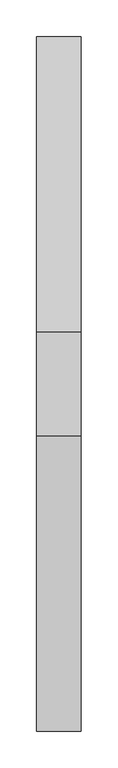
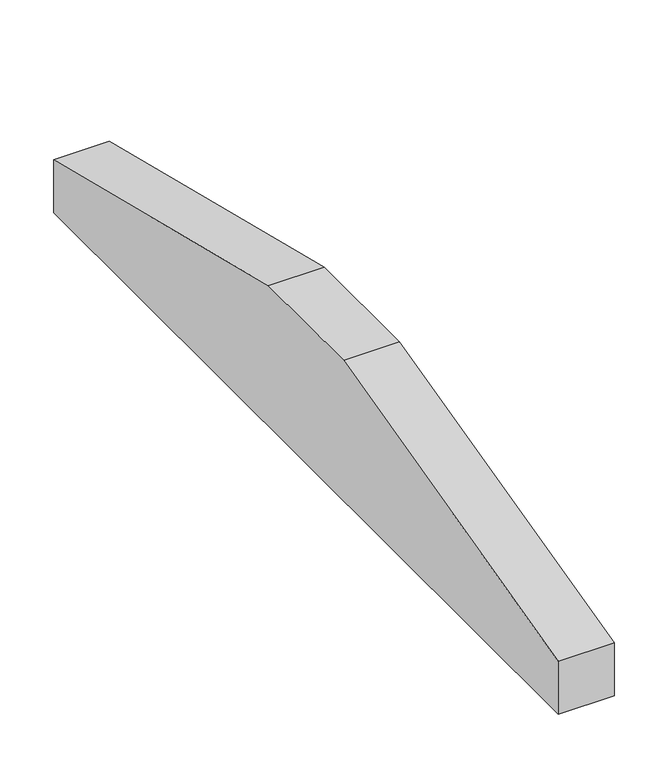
"""IFC4 building model written with IfcOpenShell, lengths in millimetres: proxy geometry, Modelos genéricos 161 : Modelos genéricos 144."""

import ifcopenshell
import ifcopenshell.guid

model = None  # the IFC model being written
_history = None  # IfcOwnerHistory: only IFC2X3 demands one
_inside = {}  # id of a spatial element -> (the spatial element, [elements in it])
_under = {}  # id of a project, library or spatial element -> (it, [spatial elements below it])
_declared = {}  # id of a project -> (the project, [libraries it declares])
_typed = {}  # id of a type object -> (the type object, [elements of that type])
_made_of = {}  # id of a material, layer set ... -> (it, [elements and type objects made of it])


def new_model(schema):
    """Start an empty IFC model of exactly this schema.

    Asked for "IFC4X3", IfcOpenShell would pick the latest addendum, in which some entities
    have other attributes; the version numbers below select the first issue.
    IFC2X3 requires an IfcOwnerHistory on every rooted entity: one is made here for all.
    """
    global model, _history
    if schema == "IFC4X3":
        model = ifcopenshell.file(schema_version=(4, 3, 0, 0))
    else:
        model = ifcopenshell.file(schema=schema)
    _inside.clear()
    _under.clear()
    _declared.clear()
    _typed.clear()
    _made_of.clear()
    _history = None
    if model.schema == "IFC2X3":
        org = make("IfcOrganization", Name="unknown")
        user = make(
            "IfcPersonAndOrganization",
            ThePerson=make("IfcPerson", FamilyName="unknown"),
            TheOrganization=org,
        )
        app = make(
            "IfcApplication",
            ApplicationDeveloper=org,
            Version="unknown",
            ApplicationFullName="unknown",
            ApplicationIdentifier="unknown",
        )
        _history = make(
            "IfcOwnerHistory",
            OwningUser=user,
            OwningApplication=app,
            ChangeAction="ADDED",
            CreationDate=0,
        )
    return model


def make(cls, **values):
    """One entity of the class cls with the attributes given. An attribute that is None is left unset."""
    return model.create_entity(
        cls, **{name: value for name, value in values.items() if value is not None}
    )


def rooted(cls, **values):
    """An entity with a GlobalId (a new one), such as an element, a storey or a relation."""
    return make(cls, GlobalId=ifcopenshell.guid.new(), OwnerHistory=_history, **values)


def si_unit(unit_type, name, prefix=None):
    """IfcSIUnit, for example si_unit("LENGTHUNIT", "METRE", prefix="MILLI")."""
    return make("IfcSIUnit", UnitType=unit_type, Prefix=prefix, Name=name)


def assignment(units):
    """IfcUnitAssignment: the units of a project."""
    return None if units is None else make("IfcUnitAssignment", Units=units)


def point(xyz):
    """IfcCartesianPoint."""
    return None if xyz is None else make("IfcCartesianPoint", Coordinates=xyz)


def direction(xyz):
    """IfcDirection."""
    return None if xyz is None else make("IfcDirection", DirectionRatios=xyz)


def frame(location, z_axis=None, x_axis=None):
    """IfcAxis2Placement3D, a coordinate frame: its origin and axes. An axis left out is left unset."""
    return make(
        "IfcAxis2Placement3D",
        Location=point(location),
        Axis=direction(z_axis),
        RefDirection=direction(x_axis),
    )


def origin():
    """The frame at (0, 0, 0) with its axes left unset."""
    return frame((0.0, 0.0, 0.0))


def place(relative_to, where):
    """IfcLocalPlacement: puts the frame where relative to a parent placement (None: the world)."""
    return make(
        "IfcLocalPlacement", PlacementRelTo=relative_to, RelativePlacement=where
    )


def context(
    kind, dimensions, precision=None, world=None, true_north=None, identifier=None
):
    """IfcGeometricRepresentationContext, for example the 3D "Model" context."""
    return make(
        "IfcGeometricRepresentationContext",
        ContextIdentifier=identifier,
        ContextType=kind,
        CoordinateSpaceDimension=dimensions,
        Precision=precision,
        WorldCoordinateSystem=world,
        TrueNorth=true_north,
    )


def project(units=None, contexts=None):
    """IfcProject with its units and contexts."""
    return rooted(
        "IfcProject",
        Name="project",
        RepresentationContexts=contexts,
        UnitsInContext=assignment(units),
    )


def spatial(cls, under=None, at=None, **own):
    """A site, building, storey or space (cls), placed at a placement, below another one or the project."""
    s = rooted(cls, ObjectPlacement=at, **own)
    if under is not None:
        _under.setdefault(under.id(), (under, []))[1].append(s)
    return s


def polyline(points):
    """IfcPolyline through the points."""
    return make("IfcPolyline", Points=[point(p) for p in points])


def outline(outer, holes=None, kind="AREA"):
    """IfcArbitraryClosedProfileDef: a profile drawn as a closed curve; with holes, ...WithVoids."""
    if holes is None:
        return make("IfcArbitraryClosedProfileDef", ProfileType=kind, OuterCurve=outer)
    return make(
        "IfcArbitraryProfileDefWithVoids",
        ProfileType=kind,
        OuterCurve=outer,
        InnerCurves=holes,
    )


def extrude(swept, where, along, depth):
    """IfcExtrudedAreaSolid: the profile swept, set in the frame where, extruded along a direction by depth."""
    return make(
        "IfcExtrudedAreaSolid",
        SweptArea=swept,
        Position=where,
        ExtrudedDirection=direction(along),
        Depth=depth,
    )


def shape(context_of_items, identifier, shape_type, items):
    """IfcShapeRepresentation: the items that make up one representation, for example the "Body"."""
    return make(
        "IfcShapeRepresentation",
        ContextOfItems=context_of_items,
        RepresentationIdentifier=identifier,
        RepresentationType=shape_type,
        Items=items,
    )


def source(mapping_origin, context_of_items, identifier, shape_type, items):
    """IfcRepresentationMap: a shape defined once, which mapped items show again and again."""
    return make(
        "IfcRepresentationMap",
        MappingOrigin=mapping_origin,
        MappedRepresentation=shape(context_of_items, identifier, shape_type, items),
    )


def transform(
    local_origin,
    x_axis=None,
    y_axis=None,
    z_axis=None,
    scale=None,
    scale2=None,
    scale3=None,
    uniform=True,
):
    """IfcCartesianTransformationOperator3D, or its non-uniform kind. x_axis, y_axis, z_axis: its Axis1, 2, 3."""
    if uniform:
        return make(
            "IfcCartesianTransformationOperator3D",
            Axis1=direction(x_axis),
            Axis2=direction(y_axis),
            LocalOrigin=point(local_origin),
            Scale=scale,
            Axis3=direction(z_axis),
        )
    return make(
        "IfcCartesianTransformationOperator3DnonUniform",
        Axis1=direction(x_axis),
        Axis2=direction(y_axis),
        LocalOrigin=point(local_origin),
        Scale=scale,
        Axis3=direction(z_axis),
        Scale2=scale2,
        Scale3=scale3,
    )


def mapped(mapping_source, mapping_target):
    """IfcMappedItem: shows the shape of a source again, moved by a transform."""
    return make(
        "IfcMappedItem", MappingSource=mapping_source, MappingTarget=mapping_target
    )


def made_of(thing, what):
    """Note that an element or type object is made of a material, layer set ...; save() writes the relation."""
    if what is not None:
        _made_of.setdefault(what.id(), (what, []))[1].append(thing)
    return thing


def element(
    cls,
    number,
    at=None,
    inside=None,
    cuts=None,
    type_object=None,
    material=None,
    context=None,
    identifier="Body",
    shape_type=None,
    held_by="IfcProductDefinitionShape",
    body=None,
    shapes=None,
    **own,
):
    """One element of the class cls, such as IfcWall. Its Tag is "e" and its number.

    at: its placement. inside: the storey or other place that contains it. cuts: it is an
    opening in that element (IfcRelVoidsElement). A single representation is given by context,
    identifier, shape_type and body (its items); several are given by shapes. held_by: the class
    of the entity that holds the representations. save() writes the other relations.
    """
    e = rooted(cls, Tag="e%d" % number, ObjectPlacement=at, **own)
    if body is not None:
        shapes = [shape(context, identifier, shape_type, body)]
    if shapes is not None:
        e.Representation = make(held_by, Representations=shapes)
    if inside is not None:
        _inside.setdefault(inside.id(), (inside, []))[1].append(e)
    if cuts is not None:
        rooted(
            "IfcRelVoidsElement", RelatingBuildingElement=cuts, RelatedOpeningElement=e
        )
    if type_object is not None:
        _typed.setdefault(type_object.id(), (type_object, []))[1].append(e)
    return made_of(e, material)


def aggregate(whole, parts):
    """IfcRelAggregates: a whole, such as a stair, and the parts it consists of."""
    return rooted("IfcRelAggregates", RelatingObject=whole, RelatedObjects=parts)


def save(model, path):
    """Write the relations noted so far, then the file.

    IfcRelAggregates (storeys below a building ...), IfcRelContainedInSpatialStructure (elements
    in a storey), IfcRelDefinesByType, IfcRelAssociatesMaterial and IfcRelDeclares: one each for
    every whole, place, type object, material and project.
    """
    for whole, parts in _under.values():
        aggregate(whole, parts)
    for where, things in _inside.values():
        rooted(
            "IfcRelContainedInSpatialStructure",
            RelatedElements=things,
            RelatingStructure=where,
        )
    for kind, things in _typed.values():
        rooted("IfcRelDefinesByType", RelatedObjects=things, RelatingType=kind)
    for what, things in _made_of.values():
        rooted("IfcRelAssociatesMaterial", RelatedObjects=things, RelatingMaterial=what)
    for by, libraries in _declared.values():
        rooted("IfcRelDeclares", RelatingContext=by, RelatedDefinitions=libraries)
    model.write(path)


def generic_models_7c653e9b(model_context):
    return source(origin(), model_context, "Body", "SweptSolid", [
        extrude(outline(polyline([(2018.6238165, 4209.7515316), (2418.6238165, 4110.0203305), (2418.6238165, 4049.7515316), (1478.6238165, 4049.7515316), (1478.6238165, 4110.0203305), (1878.6238165, 4209.7515316), (2018.6238165, 4209.7515316)])), frame((48033.4472467, 0.0, 0.0), z_axis=(1.0, 0.0, 0.0), x_axis=(0.0, 1.0, 0.0)), (0.0, 0.0, 1.0), 60.0),
    ])


if __name__ == "__main__":
    model = new_model("IFC4")
    model_context = context("Model", 3, world=origin())
    ifc_project = project(units=[si_unit("LENGTHUNIT", "METRE", prefix="MILLI")], contexts=[model_context])
    site = spatial("IfcSite", under=ifc_project)
    building = spatial("IfcBuilding", under=site)
    placement = place(None, origin())
    generic_models_shape = generic_models_7c653e9b(model_context)
    element("IfcBuildingElementProxy", 1, Name="Modelos genéricos 161 : Modelos genéricos 144", ObjectType="Modelos genéricos 161 : Modelos genéricos 144", at=placement, inside=building, context=model_context, shape_type="MappedRepresentation", body=[
        mapped(generic_models_shape, transform((0.0, 0.0, 0.0), x_axis=(1.0, 0.0, 0.0), y_axis=(0.0, 1.0, 0.0), z_axis=(0.0, 0.0, 1.0))),
    ])
    save(model, "model.ifc")
